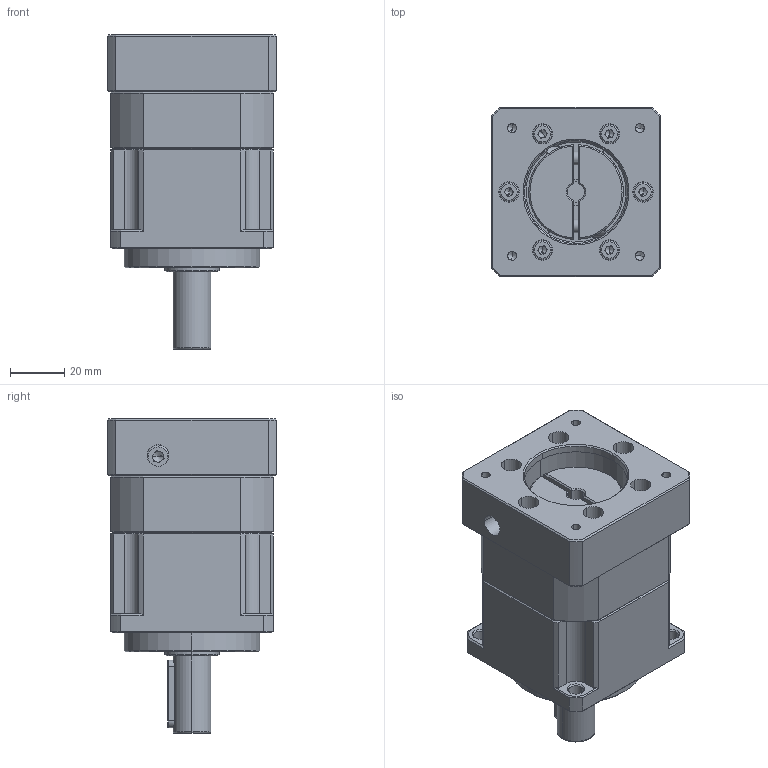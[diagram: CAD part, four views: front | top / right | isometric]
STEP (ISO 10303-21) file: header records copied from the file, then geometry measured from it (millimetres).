
FILE_DESCRIPTION (( 'STEP AP214' ), '1' );
FILE_NAME ('ZPB060-D14-L1-P1-6.35-38.1-47.14X47.14-M4.step', '2024-04-23T14:22:16', ( 'Windows 蚚誧' ), ( 'Organization' ), 'SwSTEP 2.0', 'SolidWorks 2016', '' );
FILE_SCHEMA (( 'AUTOMOTIVE_DESIGN' ));
Length unit declared in the file: millimetre
Products named in the file (1): ZPB060-D14-L1-P1-6.35-38.1-47.14X47.14-M4
Bounding box: 62.5 x 62.5 x 116 mm (x, y, z)
Volume: 244437.9 mm3; surface area: 67731.8 mm2
Topology: 13 solids, 13 shells, 1685 faces, 4492 edges, 2895 vertices
Faces by surface type: plane 899, bspline 322, cylinder 276, cone 172, torus 16
Entity records: 87329 total; most frequent: CARTESIAN_POINT 28827, ORIENTED_EDGE 8876, DIRECTION 7133, EDGE_CURVE 4438, VERTEX_POINT 2895, LINE 2871, VECTOR 2871, AXIS2_PLACEMENT_3D 2131
